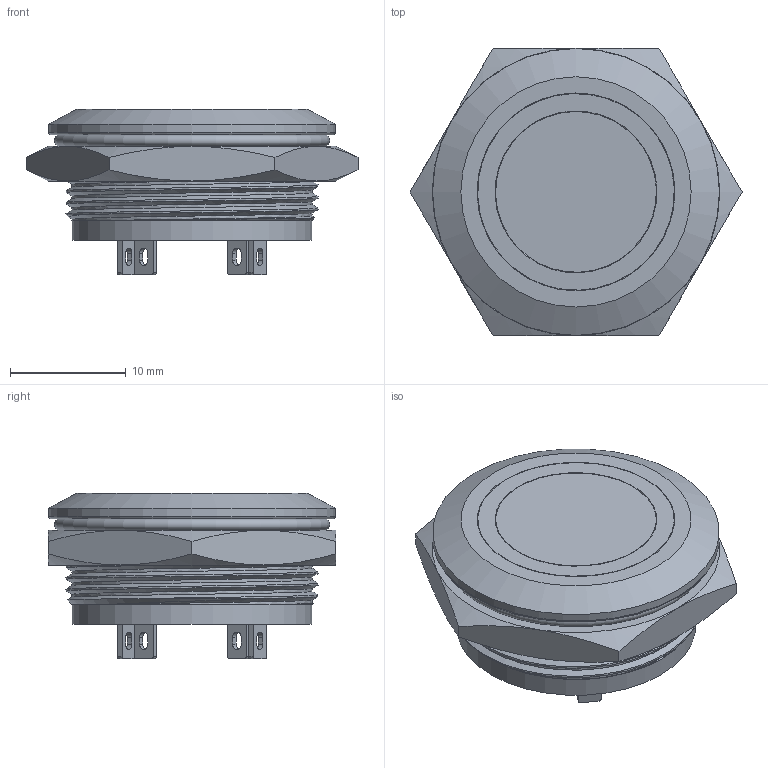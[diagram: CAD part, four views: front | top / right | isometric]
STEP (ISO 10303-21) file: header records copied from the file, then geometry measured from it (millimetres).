
FILE_DESCRIPTION(/* description */ (''),/* implementation_level */ '2;1');
FILE_NAME(/* name */ 'EJ22-271PM.stp',/* time_stamp */ '2019-11-08T13:58:35+08:00',/* author */ (''),/* organization */ (''),/* preprocessor_version */ 'ST-DEVELOPER v11',/* originating_system */ 'SIEMENS UGS NX 6.0',/* authorisation */ '');
FILE_SCHEMA (('CONFIG_CONTROL_DESIGN'));
Length unit declared in the file: millimetre
Products named in the file (8): JH8.382.063; JH8.683.033; JH7.740.176; JH7.810.263; JH7.370.459; JH8.382.286; JH8.382.288; EJ22-271PM
Assembly tree (10 placements, depth 2):
  EJ22-271PM
    JH8.382.288
    JH8.382.286
    JH7.370.459
    JH7.810.263
    JH7.740.176  x4
    JH8.683.033
    JH8.382.063
Bounding box: 28.7 x 24.85 x 14.3 mm (x, y, z)
Volume: 3077.2 mm3; surface area: 5784.5 mm2
Topology: 10 solids, 10 shells, 268 faces, 671 edges, 441 vertices
Faces by surface type: plane 179, cylinder 51, cone 17, torus 8, extrusion 8, bspline 5
Full cylindrical faces by diameter (mm): 3.8 x2, 4.2 x1, 7.8 x1, 12 x1, 13.9 x1, 14 x1, 17 x1, 17.1 x1, 17.65 x1, 19.9 x1, 20.1 x1, 20.7 x1, 24.8 x1
Entity records: 8468 total; most frequent: CARTESIAN_POINT 3002, ORIENTED_EDGE 914, DIRECTION 866, EDGE_CURVE 457, VERTEX_POINT 313, AXIS2_PLACEMENT_3D 303, VECTOR 260, EDGE_LOOP 259
